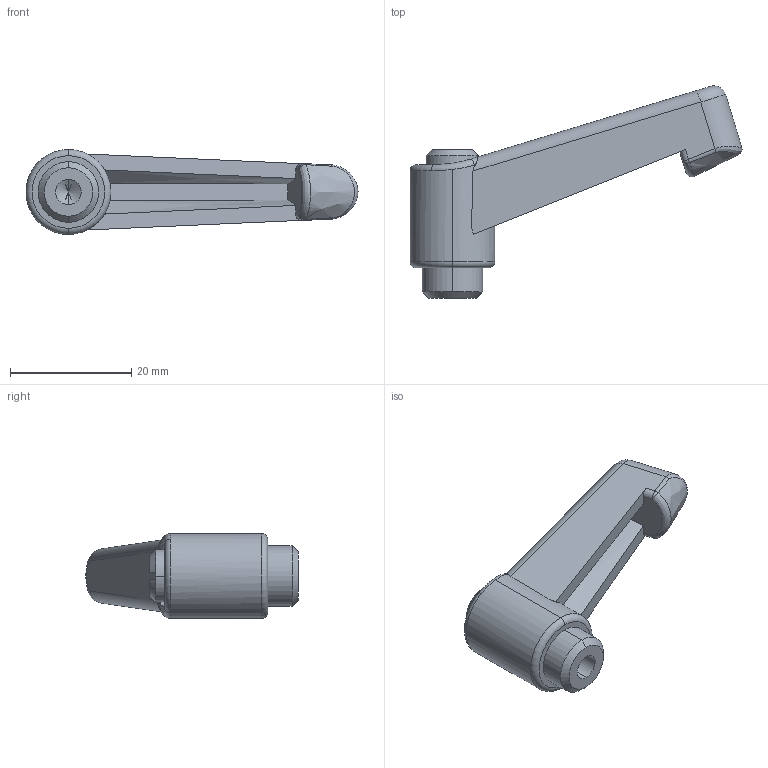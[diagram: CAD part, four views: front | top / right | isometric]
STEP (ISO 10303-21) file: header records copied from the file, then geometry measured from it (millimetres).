
FILE_DESCRIPTION (( 'STEP AP203' ), '1' );
FILE_NAME ('AS-405-45-M5.STEP', '2015-11-23T07:20:03', ( '' ), ( '' ), 'SwSTEP 2.0', 'SolidWorks 2014', '' );
FILE_SCHEMA (( 'CONFIG_CONTROL_DESIGN' ));
Length unit declared in the file: millimetre
Products named in the file (1): AS-405-45-M5
Bounding box: 54.78 x 35 x 14 mm (x, y, z)
Volume: 6731.6 mm3; surface area: 3612 mm2
Topology: 1 solids, 1 shells, 60 faces, 144 edges, 87 vertices
Faces by surface type: plane 18, cylinder 17, bspline 11, cone 6, torus 4, sphere 4
Entity records: 2311 total; most frequent: CARTESIAN_POINT 950, ORIENTED_EDGE 284, DIRECTION 253, EDGE_CURVE 142, AXIS2_PLACEMENT_3D 104, VERTEX_POINT 87, EDGE_LOOP 63, FACE_OUTER_BOUND 60
